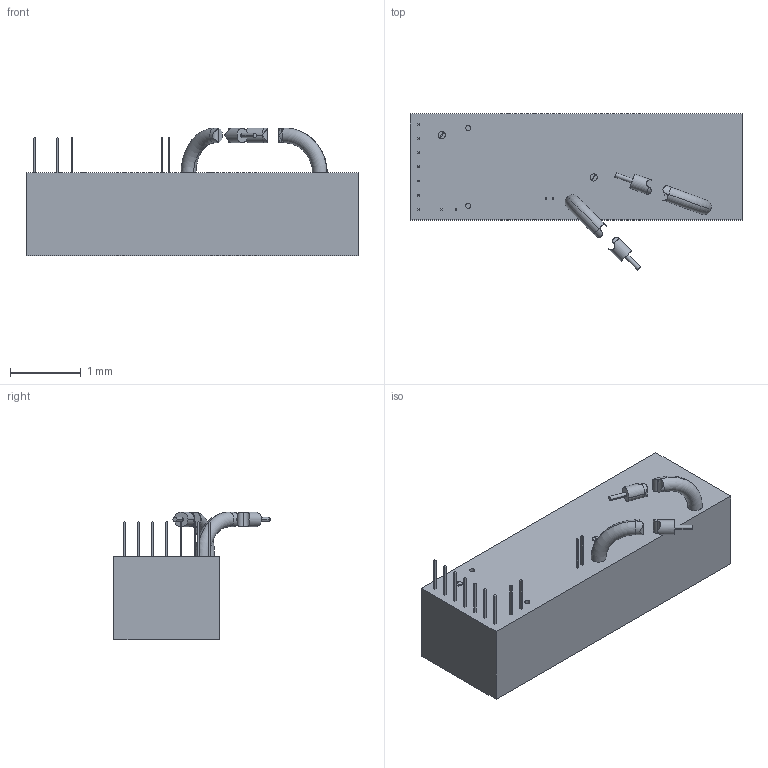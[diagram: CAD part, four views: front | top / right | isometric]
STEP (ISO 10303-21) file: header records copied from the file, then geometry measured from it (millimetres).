
FILE_DESCRIPTION((''),'2;1');
FILE_NAME('OL-027_revJ_15A_AUX.stp','2007-12-07T11:00:05',(''),(''),'Mechanical Desktop 2007','Mechanical Desktop 2007',', , ');
FILE_SCHEMA(('CONFIG_CONTROL_DESIGN'));
Length unit declared in the file: millimetre
Products named in the file (5): OL-027_REVJ_15A_AUX; OL-027; WIRE; SCREW_ADJUST; dwgconnts
Assembly tree (6 placements, depth 2):
  OL-027_REVJ_15A_AUX
    OL-027
    WIRE  x2
    SCREW_ADJUST  x2
    dwgconnts
Bounding box: 4.7 x 2.21 x 1.81 mm (x, y, z)
Volume: 8.4 mm3; surface area: 31.6 mm2
Topology: 9 solids, 9 shells, 175 faces, 410 edges, 290 vertices
Faces by surface type: plane 133, cylinder 38, torus 4
Full cylindrical faces by diameter (mm): 0.21 x2
Entity records: 4463 total; most frequent: CARTESIAN_POINT 1127, DIRECTION 647, ORIENTED_EDGE 624, EDGE_CURVE 312, VECTOR 261, LINE 261, AXIS2_PLACEMENT_3D 193, VERTEX_POINT 192
